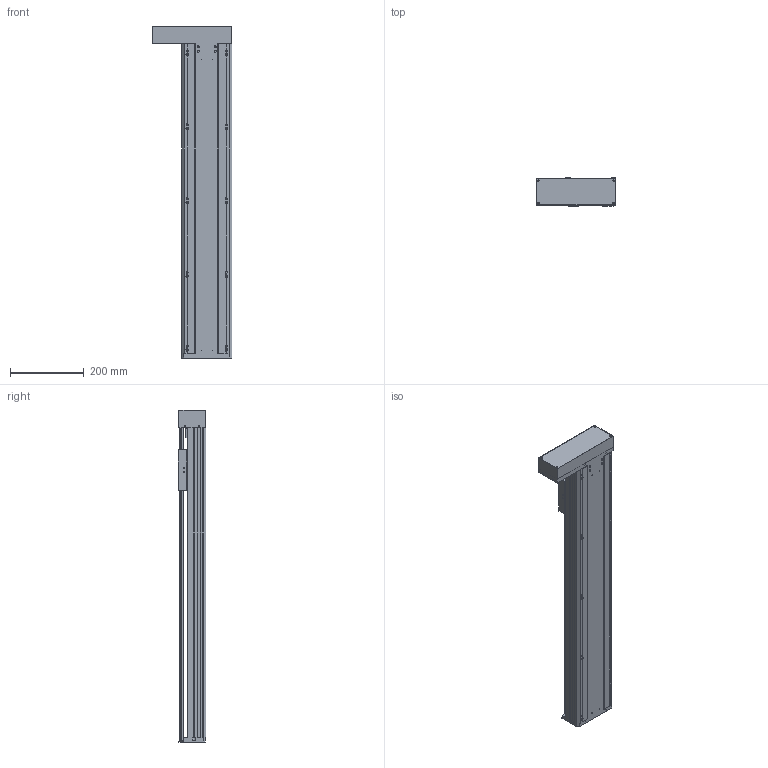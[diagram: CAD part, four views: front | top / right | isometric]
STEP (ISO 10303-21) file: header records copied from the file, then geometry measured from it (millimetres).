
FILE_DESCRIPTION(/* description */ (''),/* implementation_level */ '2;1');
FILE_NAME(/* name */ 'TKA136-FL-650_asm1.stp',/* time_stamp */ '2016-05-07T13:21:58+08:00',/* author */ (''),/* organization */ (''),/* preprocessor_version */ 'ST-DEVELOPER v15',/* originating_system */ 'SIEMENS PLM Software NX 8.5',/* authorisation */ '');
FILE_SCHEMA (('AUTOMOTIVE_DESIGN { 1 0 10303 214 3 1 1 1 }'));
Length unit declared in the file: millimetre
Products named in the file (3): 100-02; 100-01; TKA136-FL-650_asm1
Assembly tree (2 placements, depth 2):
  TKA136-FL-650_asm1
    100-01
    100-02
Bounding box: 216 x 75 x 900 mm (x, y, z)
Volume: 2793729.8 mm3; surface area: 1107172.8 mm2
Topology: 2 solids, 12 shells, 886 faces, 2496 edges, 1629 vertices
Faces by surface type: plane 421, cylinder 414, cone 51
Full cylindrical faces by diameter (mm): 2.5 x14, 3 x2, 3.3 x13, 4 x4, 4.2 x6, 4.5 x24, 5 x18, 5.5 x26, 6.6 x14, 8 x20, 10 x9, 10.5 x10, 11 x4, 11.6 x1, 12 x9, 15 x3, 16 x5, 17 x1, 24 x5, 26 x1, 28 x1, 46 x1, 50 x1
Entity records: 29616 total; most frequent: CARTESIAN_POINT 7794, DIRECTION 4518, ORIENTED_EDGE 4234, EDGE_CURVE 2117, AXIS2_PLACEMENT_3D 1707, VERTEX_POINT 1512, EDGE_LOOP 1320, LINE 1104
